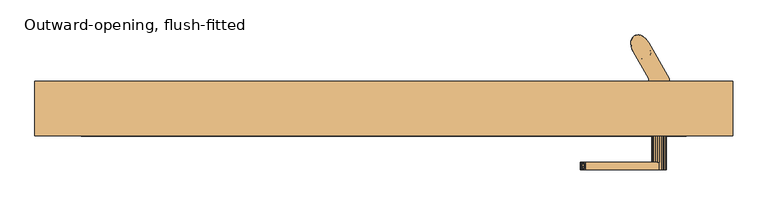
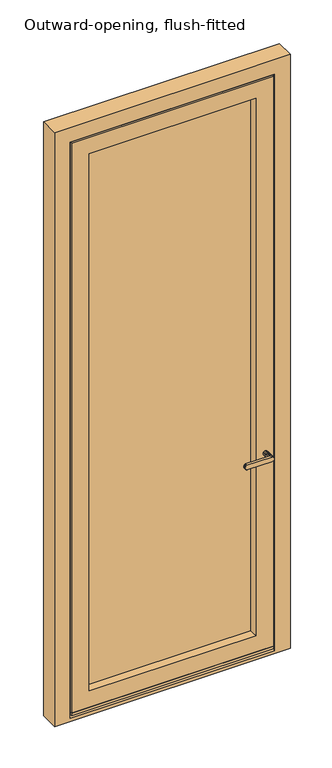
"""IFC4 building model written with IfcOpenShell, lengths in millimetres: door geometry, Outward-opening, flush-fitted."""

from ifc_helpers import new_model, si_unit, frame, origin, place, context, project, spatial, polyline, outline, extrude, faceted_brep, source, transform, mapped, element, save


def outward_opening_flush_fitted_30daa148(model_context):
    return source(origin(), model_context, "Body", "SolidModel", [
        extrude(outline(polyline([(817.0000003, 299.0), (-167.0, 299.0), (-167.0, 307.3), (817.0000003, 307.3), (817.0000003, 299.0)])), frame((0.0, 0.0, 176.0), z_axis=(0.0, 0.0, 1.0), x_axis=(1.0, 0.0, 0.0)), (0.0, 0.0, 1.0), 14.0),
        faceted_brep([(744.8067222, 464.9671188, 3103.5), (741.3206357, 464.7977178, 3103.5), (738.2202408, 463.6325784, 3103.5), (735.6610044, 461.5301259, 3103.5), (733.7712572, 458.5957857, 3103.5), (732.6457591, 454.9766982, 3103.5), (732.3409472, 450.8543393, 3103.5), (732.8721062, 446.4354214, 3103.5), (734.2126013, 441.9415275, 3103.5), (736.2952147, 437.5980002, 3103.5), (739.0155154, 433.622642, 3103.5), (742.2370961, 430.2147941, 3103.5), (745.7984134, 427.5453402, 3103.5), (749.5208879, 425.7481378, 3103.5), (753.2178593, 424.9133062, 3103.5), (756.7039458, 425.0827073, 3103.5), (759.8043407, 426.2478466, 3103.5), (762.3635771, 428.3502991, 3103.5), (764.2533243, 431.2846393, 3103.5), (765.3788224, 434.9037268, 3103.5), (765.6836342, 439.0260857, 3103.5), (765.1524753, 443.4450036, 3103.5), (763.8119802, 447.9388975, 3103.5), (761.7293668, 452.2824248, 3103.5), (759.0090661, 456.257783, 3103.5), (755.7874853, 459.6656309, 3103.5), (752.2261681, 462.3350848, 3103.5), (748.5036935, 464.1322872, 3103.5), (762.3635771, 428.3502991, 213.5), (759.8043407, 426.2478466, 213.5), (756.7039458, 425.0827073, 213.5), (753.2178593, 424.9133062, 213.5), (749.5208879, 425.7481378, 213.5), (745.7984134, 427.5453402, 213.5), (742.2370961, 430.2147941, 213.5), (739.0155154, 433.622642, 213.5), (736.2952147, 437.5980002, 213.5), (734.2126013, 441.9415275, 213.5), (732.8721062, 446.4354214, 213.5), (732.3409472, 450.8543393, 213.5), (732.6457591, 454.9766982, 213.5), (733.7712572, 458.5957857, 213.5), (735.6610044, 461.5301259, 213.5), (738.2202408, 463.6325784, 213.5), (741.3206357, 464.7977178, 213.5), (744.8067222, 464.9671188, 213.5), (748.5036935, 464.1322872, 213.5), (752.2261681, 462.3350848, 213.5), (755.7874853, 459.6656309, 213.5), (759.0090661, 456.257783, 213.5), (761.7293668, 452.2824248, 213.5), (763.8119802, 447.9388975, 213.5), (765.1524753, 443.4450036, 213.5), (765.6836342, 439.0260857, 213.5), (765.3788224, 434.9037268, 213.5), (764.2533243, 431.2846393, 213.5), (738.4494676, 463.7609343, 3039.7612202), (736.2952147, 437.5980002, 304.783489), (733.1085078, 456.8611962, 306.3237695), (746.6402933, 464.6737836, 3010.676228), (746.6402947, 464.6737832, 297.4293988), (745.2411791, 464.9198052, 446.6944318), (751.6729512, 462.6633417, 369.3240477), (739.7119586, 464.3371113, 368.0172447), (733.5897668, 458.1834463, 2875.4794892), (732.3332764, 451.4975723, 2947.6759605), (736.8642382, 462.6929778, 2948.98274), (739.3821368, 464.2065607, 2478.1094389), (751.0982645, 462.9813242, 2433.366327), (739.3223167, 464.18144, 2387.972511), (736.2952147, 437.5980002, 3012.216511), (761.7293668, 452.2824248, 3012.2165134), (761.7293668, 452.2824248, 304.7834866), (749.110197, 463.90456, 2922.0327645), (732.5397246, 454.3375828, 394.9672499), (736.2952147, 437.5980002, 396.066978), (737.9944676, 463.4982397, 277.2387736), (748.5438197, 464.1179974, 1435.6433105), (761.7293668, 452.2824248, 1491.4688512), (761.7293668, 452.2824248, 1479.816978), (761.7293668, 452.2824248, 1400.185359), (735.1918812, 460.9617113, 459.8390978), (740.0603328, 464.4609039, 526.5775533), (751.2605112, 462.8939051, 2701.4632106), (740.4883528, 464.5941609, 2731.5722903), (750.3335266, 463.3686784, 2789.8337304), (733.1085085, 456.8611986, 3019.5705949), (749.8483493, 463.5934845, 898.1262183), (750.5985067, 463.2390529, 991.9541054), (761.7293668, 452.2824248, 943.767915), (761.7293668, 452.2824248, 2920.9330213), (761.7293668, 452.2824248, 2833.5334894), (761.7293668, 452.2824248, 2829.649533), (761.7293668, 452.2824248, 2746.1339575), (732.3649761, 450.2518328, 715.5592395), (732.3600177, 452.5037097, 806.8427277), (734.5665531, 460.0659174, 753.748835), (749.7626925, 463.6314948, 2242.6546305), (735.4869101, 461.3281065, 2186.2171541), (737.7578063, 463.3485788, 2283.8905959), (748.7483927, 464.0434335, 1517.9321883), (737.1341448, 462.9071638, 1569.1585234), (749.1594059, 463.8849811, 1613.8704529), (738.4683878, 463.771178, 2656.7924568), (738.9192864, 464.0001544, 2567.4509478), (732.3935513, 453.0285127, 2607.3749737), (738.2202407, 463.6325784, 1035.0514496), (737.1079065, 462.8869902, 938.4578574), (732.3341555, 451.2320884, 1881.8538044), (736.2952147, 437.5980002, 1837.183022), (736.2952147, 437.5980002, 1852.7188505), (736.2952147, 437.5980002, 1926.524533), (737.031655, 462.8275832, 1125.837811), (747.2693467, 464.517869, 1168.8726905), (749.9080848, 463.5666791, 1085.9473652), (737.0854011, 462.8695777, 1212.7139165), (732.3420836, 452.0537925, 1256.4632408), (736.9417688, 462.7560369, 1300.8775569), (737.1341447, 462.9071638, 1658.5823811), (732.3447718, 452.1403125, 1613.8292772), (732.3332088, 451.4091556, 2149.8783316), (736.2952147, 437.5980002, 2105.2075549), (736.2952147, 437.5980002, 2120.7433821), (736.2952147, 437.5980002, 2194.5490659), (761.7293668, 452.2824248, 1852.718854), (751.1079853, 462.9761385, 1808.0481216), (750.8956489, 463.0879095, 1899.8226875), (750.534298, 463.2709086, 2612.1217017), (732.3364788, 451.8128215, 1527.5583067), (736.2952147, 437.5980002, 1479.816978), (736.2952147, 437.5980002, 1491.4688498), (736.2952147, 437.5980002, 1569.158489), (737.7578063, 463.3485788, 1747.8415416), (732.399869, 453.1083165, 1797.4267243), (738.6750569, 463.879689, 1844.8045559), (761.7293668, 452.2824248, 2478.109427), (751.1048736, 462.9777992, 2522.7801928), (736.9986873, 462.8015344, 2802.6217509), (741.3569523, 464.8050118, 2868.0801076), (732.3542417, 452.3830403, 1705.6035919), (761.7293668, 452.2824248, 852.4844284), (736.2952147, 437.5980002, 1211.7924451), (736.2952147, 437.5980002, 1217.6183832), (736.2952147, 437.5980002, 1301.133956), (761.7293668, 452.2824248, 1763.3773419), (750.6092048, 463.2337175, 1718.7066128), (732.3588912, 452.481305, 2327.1169999), (732.3575957, 452.4549077, 2418.8738478), (749.3824535, 463.7941617, 1263.2601666), (761.7293668, 452.2824248, 1308.9018724), (761.7293668, 452.2824248, 1301.133956), (761.7293668, 452.2824248, 1217.6183859), (736.2952147, 437.5980002, 2373.2320879), (761.7293668, 452.2824248, 1674.0358299), (761.7293668, 452.2824248, 1658.5), (761.7293668, 452.2824248, 1582.7523434), (732.345104, 452.1502613, 1167.1147796), (732.3822957, 452.8747832, 1077.7802226), (732.358304, 452.4694262, 1349.0545448), (736.2952147, 437.5980002, 2464.5155769), (732.4110111, 453.240021, 2510.1573349), (761.7293668, 452.2824248, 2031.4018724), (750.2446824, 463.4110552, 1991.6458261), (751.9024622, 462.5298181, 2076.0726483), (735.7228819, 461.5995764, 682.8588012), (732.3457513, 452.1692553, 621.3637247), (732.4092261, 453.219614, 532.9922607), (736.2952147, 437.5980002, 578.633956), (732.4283102, 453.4263296, 1441.7482187), (737.9761366, 463.4869765, 1390.4755053), (736.2952147, 437.5980002, 487.350467), (732.3858431, 449.907579, 460.8624964), (754.9606472, 460.3765494, 453.7451278), (751.3307786, 462.8554716, 511.4648929), (737.2710508, 463.0102415, 603.806908), (736.2952147, 437.5980002, 669.9174451), (732.3372326, 451.8535427, 898.126215), (738.2202409, 463.6325785, 841.8642654), (748.3647295, 464.1809238, 659.1547405), (753.4395809, 461.5368909, 806.8427306), (751.6349318, 462.6850987, 2856.6324745), (747.6798859, 464.4012707, 583.1880996), (761.7293668, 452.2824248, 2738.366044), (761.7293668, 452.2824248, 2656.7924511), (732.42069, 453.3466495, 2699.940621), (732.335527, 451.7539259, 2807.3986574), (732.6951026, 447.3587256, 2866.1656853), (761.7293668, 452.2824248, 2567.450939), (761.7293668, 452.2824248, 2647.0825549), (761.7293668, 452.2824248, 2464.5155769), (761.7293668, 452.2824248, 2388.767915), (750.2512531, 463.4079398, 2334.4675158), (761.7293668, 452.2824248, 2299.4264029), (761.7293668, 452.2824248, 2283.8905769), (761.7293668, 452.2824248, 2210.0848909), (736.2952147, 437.5980002, 2388.7679137), (736.2952147, 437.5980002, 2555.7990659), (736.2952147, 437.5980002, 2478.1094224), (736.2952147, 437.5980002, 2647.0825549), (736.2952147, 437.5980002, 2656.7924454), (736.2952147, 437.5980002, 2738.366044), (732.3920886, 453.0094265, 2235.3144708), (736.2952147, 437.5980002, 2283.8905769), (735.0212303, 460.7345832, 2121.0154935), (761.7293668, 452.2824248, 578.6339575), (753.6840343, 461.3627096, 2165.4141571), (761.7293668, 452.2824248, 2194.5490659), (761.7293668, 452.2824248, 2120.7433788), (733.2729891, 457.3594205, 2060.5368228), (736.2952147, 437.5980002, 2015.866044), (736.2952147, 437.5980002, 2031.4018734), (740.9710909, 464.7208451, 2041.9850456), (732.371189, 452.7039869, 1971.1953135), (761.7293668, 452.2824248, 2555.7990659), (736.2952147, 437.5980002, 2210.0848908), (736.2952147, 437.5980002, 2299.4264051), (732.3451269, 452.1509445, 988.4387133), (736.2952147, 437.5980002, 1033.1094231), (736.2952147, 437.5980002, 2567.4509367), (761.7293668, 452.2824248, 396.0669787), (736.2952147, 437.5980002, 2829.649533), (736.2952147, 437.5980002, 2920.933022), (736.2952147, 437.5980002, 2746.1339541), (736.2952147, 437.5980002, 761.2009341), (742.635027, 464.9831179, 2138.6482318), (761.7293668, 452.2824248, 669.917444), (754.2088943, 460.9730561, 719.6075288), (744.4741223, 464.9937381, 754.3114731), (761.7293668, 452.2824248, 761.2009362), (736.2952147, 437.5980002, 852.4844231), (736.2952147, 437.5980002, 943.7679121), (761.7293668, 452.2824248, 1035.0514015), (761.7293668, 452.2824248, 1211.7924451), (761.7293668, 452.2824248, 1126.3348937), (750.7750051, 463.1500152, 1354.5436536), (761.7293668, 452.2824248, 1390.475467), (736.2952147, 437.5980002, 1122.4509341), (736.2952147, 437.5980002, 1035.0514054), (761.7293668, 452.2824248, 1122.4509341), (761.7293668, 452.2824248, 1033.1094231), (736.2952147, 437.5980002, 1126.3348943), (736.2952147, 437.5980002, 1390.475467), (736.2952147, 437.5980002, 1400.1853609), (738.0377436, 463.5246154, 1475.3268617), (736.2952147, 437.5980002, 1308.901872), (736.2952147, 437.5980002, 1658.5), (736.2952147, 437.5980002, 1582.7523386), (736.2952147, 437.5980002, 1747.841511), (736.2952147, 437.5980002, 1763.3773418), (761.7293668, 452.2824248, 1569.158489), (736.2952147, 437.5980002, 1942.0603591), (761.7293668, 452.2824248, 1747.841511), (738.6974089, 463.891059, 1942.0603856), (761.7293668, 452.2824248, 1837.183022), (761.7293668, 452.2824248, 1942.060366), (761.7293668, 452.2824248, 2105.2075549), (736.2952147, 437.5980002, 1674.0358275), (761.7293668, 452.2824248, 2015.866044), (761.7293668, 452.2824248, 1926.524533), (761.7293668, 452.2824248, 487.3504709), (761.7293668, 452.2824248, 2373.2320879), (736.2952147, 437.5980002, 2833.5334882), (759.5751139, 426.1194907, 3039.7612202), (764.9160737, 433.0192288, 306.3237695), (751.3842882, 425.2066414, 3010.676228), (751.3842867, 425.2066418, 297.4293988), (752.7834024, 424.9606198, 446.6944318), (746.3516303, 427.2170833, 369.3240477), (758.3126229, 425.5433137, 368.0172447), (764.4348147, 431.6969787, 2875.4794892), (765.691305, 438.3828527, 2947.6759605), (761.1603433, 427.1874472, 2948.98274), (758.6424447, 425.6738643, 2478.1094389), (746.926317, 426.8991008, 2433.366327), (758.7022647, 425.698985, 2387.972511), (748.9143844, 425.975865, 2922.0327645), (765.4848569, 435.5428422, 394.9672499), (760.0301139, 426.3821853, 277.2387736), (749.4807618, 425.7624276, 1435.6433105), (762.8327002, 428.9187137, 459.8390978), (757.9642487, 425.4195211, 526.5775533), (746.7640703, 426.9865199, 2701.4632106), (757.5362287, 425.2862641, 2731.5722903), (747.6910549, 426.5117466, 2789.8337304), (764.916073, 433.0192264, 3019.5705949), (748.1762322, 426.2869405, 898.1262183), (747.4260747, 426.6413721, 991.9541054), (765.6596054, 439.6285922, 715.5592395), (765.6645638, 437.3767153, 806.8427277), (763.4580284, 429.8145076, 753.748835), (748.261889, 426.2489302, 2242.6546305), (762.5376714, 428.5523186, 2186.2171541), (760.2667751, 426.5318462, 2283.8905959), (749.2761888, 425.8369915, 1517.9321883), (760.8904367, 426.9732612, 1569.1585234), (748.8651756, 425.9954439, 1613.8704529), (759.5561937, 426.109247, 2656.7924568), (747.4902834, 426.6095164, 2612.1217017), (759.1052951, 425.8802706, 2567.4509478), (759.8043408, 426.2478466, 1035.0514496), (760.916675, 426.9934348, 938.4578574), (765.6904259, 438.6483366, 1881.8538044), (760.9929265, 427.0528418, 1125.837811), (750.7552347, 425.362556, 1168.8726905), (748.1164967, 426.3137459, 1085.9473652), (760.9391804, 427.0108473, 1212.7139165), (765.6824979, 437.8266325, 1256.4632408), (761.0828127, 427.1243881, 1300.8775569), (760.8904368, 426.9732612, 1658.5823811), (765.6798097, 437.7401125, 1613.8292772), (765.6913727, 438.4712695, 2149.8783316), (746.9165962, 426.9042865, 1808.0481216), (747.1289326, 426.7925155, 1899.8226875), (765.6881027, 438.0676035, 1527.5583067), (760.2667752, 426.5318462, 1747.8415416), (765.6247125, 436.7721085, 1797.4267243), (759.3495245, 426.000736, 1844.8045559), (746.9197079, 426.9026258, 2522.7801928), (761.0258942, 427.0788906, 2802.6217509), (756.6676292, 425.0754132, 2868.0801076), (765.6703398, 437.4973847, 1705.6035919), (747.4153766, 426.6467075, 1718.7066128), (765.6656902, 437.39912, 2327.1169999), (765.6669858, 437.4255173, 2418.8738478), (748.642128, 426.0862633, 1263.2601666), (765.6794775, 437.7301637, 1167.1147796), (765.6422857, 437.0056418, 1077.7802226), (765.6662775, 437.4109988, 1349.0545448), (765.6135703, 436.640404, 2510.1573349), (747.7798991, 426.4693698, 1991.6458261), (746.1221192, 427.3506069, 2076.0726483), (762.3016996, 428.2808486, 682.8588012), (765.6788301, 437.7111697, 621.3637247), (765.6153554, 436.660811, 532.9922607), (765.6310302, 436.8519123, 2607.3749737), (765.5962712, 436.4540954, 1441.7482187), (760.0484449, 426.3934485, 1390.4755053), (765.6387384, 439.972846, 460.8624964), (743.0639343, 429.5038756, 453.7451278), (746.6938028, 427.0249534, 511.4648929), (760.7535307, 426.8701835, 603.806908), (765.6873489, 438.0268823, 898.126215), (759.8043406, 426.2478465, 841.8642654), (749.659852, 425.6995012, 659.1547405), (744.5850006, 428.3435341, 806.8427306), (746.3896497, 427.1953263, 2856.6324745), (750.3446956, 425.4791543, 583.1880996), (765.6038915, 436.5337755, 2699.940621), (765.6890545, 438.1264991, 2807.3986574), (765.3294789, 442.5216994, 2866.1656853), (747.7733284, 426.4724852, 2334.4675158), (765.6324929, 436.8709985, 2235.3144708), (763.0033512, 429.1458418, 2121.0154935), (744.3405471, 428.5177154, 2165.4141571), (764.7515924, 432.5210045, 2060.5368228), (757.0534906, 425.1595799, 2041.9850456), (765.6533925, 437.1764381, 1971.1953135), (765.6794545, 437.7294805, 988.4387133), (755.3895545, 424.8973071, 2138.6482318), (743.8156872, 428.9073689, 719.6075288), (753.5504591, 424.8866869, 754.3114731), (747.2495764, 426.7304098, 1354.5436536), (759.9868379, 426.3558096, 1475.3268617), (759.3271726, 425.989366, 1942.0603856)], [[[0, 1, 2, 3, 4, 5, 6, 7, 8, 9, 10, 11, 12, 13, 14, 15, 16, 17, 18, 19, 20, 21, 22, 23, 24, 25, 26, 27]], [[28, 29, 30, 31, 32, 33, 34, 35, 36, 37, 38, 39, 40, 41, 42, 43, 44, 45, 46, 47, 48, 49, 50, 51, 52, 53, 54, 55]], [[56, 3, 2]], [[38, 57, 58]], [[26, 25, 59]], [[59, 0, 27]], [[47, 60, 48]], [[61, 62, 63]], [[56, 1, 0]], [[64, 65, 66]], [[45, 60, 46]], [[67, 68, 69]], [[70, 9, 8]], [[37, 36, 57]], [[24, 23, 71]], [[72, 50, 49]], [[66, 59, 73]], [[47, 46, 60]], [[74, 57, 75]], [[58, 76, 41]], [[77, 78, 79, 80]], [[25, 24, 71]], [[81, 82, 61]], [[83, 84, 85]], [[6, 86, 7]], [[7, 70, 8]], [[87, 88, 89]], [[58, 57, 74]], [[60, 62, 72]], [[26, 59, 27]], [[73, 71, 90]], [[86, 65, 70]], [[76, 45, 44]], [[39, 58, 40]], [[85, 91, 92, 93]], [[94, 95, 96]], [[76, 44, 43]], [[97, 98, 99]], [[6, 5, 86]], [[100, 101, 102]], [[59, 56, 0]], [[86, 56, 66]], [[103, 104, 105]], [[58, 41, 40]], [[38, 37, 57]], [[60, 45, 76]], [[25, 71, 59]], [[76, 42, 41]], [[4, 3, 56]], [[63, 58, 74]], [[60, 76, 63]], [[4, 86, 5]], [[38, 58, 39]], [[48, 72, 49]], [[106, 88, 107]], [[56, 86, 4]], [[60, 72, 48]], [[59, 71, 73]], [[65, 86, 66]], [[62, 60, 63]], [[86, 70, 7]], [[108, 109, 110, 111]], [[112, 113, 114]], [[115, 116, 117]], [[118, 101, 119]], [[120, 121, 122, 123]], [[124, 125, 126]], [[127, 104, 103]], [[128, 129, 130, 131]], [[132, 133, 134]], [[135, 68, 136]], [[137, 64, 138]], [[119, 139, 118]], [[89, 140, 87]], [[116, 141, 142, 143]], [[144, 145, 125]], [[69, 146, 147]], [[148, 149, 150, 151]], [[147, 146, 152]], [[132, 139, 133]], [[102, 153, 154, 155]], [[156, 112, 157]], [[158, 117, 116]], [[159, 160, 147]], [[161, 162, 163]], [[96, 164, 94]], [[165, 166, 167]], [[67, 136, 68]], [[160, 105, 104]], [[118, 145, 102]], [[158, 168, 169]], [[75, 170, 171]], [[172, 61, 173]], [[166, 170, 167]], [[174, 166, 165]], [[94, 165, 175]], [[81, 171, 166]], [[166, 82, 81]], [[95, 176, 177]], [[174, 164, 178]], [[87, 179, 177]], [[90, 91, 180]], [[174, 178, 181]], [[83, 93, 182, 183]], [[105, 184, 103]], [[185, 186, 64]], [[83, 85, 93]], [[85, 138, 180]], [[85, 137, 138]], [[136, 127, 187]], [[127, 183, 188, 187]], [[103, 84, 83]], [[183, 127, 83]], [[103, 83, 127]], [[68, 135, 189, 190]], [[104, 136, 67]], [[191, 68, 190]], [[68, 191, 69]], [[97, 192, 193, 194]], [[192, 97, 191]], [[191, 99, 69]], [[147, 152, 195, 159]], [[160, 196, 105]], [[160, 159, 197, 196]], [[147, 67, 69]], [[184, 198, 199, 200]], [[198, 184, 105]], [[67, 147, 160]], [[146, 69, 99]], [[201, 146, 99]], [[201, 202, 146]], [[191, 97, 99]], [[98, 203, 120]], [[178, 204, 181]], [[205, 194, 206, 207]], [[208, 209, 210, 121]], [[201, 120, 123]], [[211, 212, 208]], [[136, 187, 213, 135]], [[136, 104, 127]], [[104, 67, 160]], [[201, 123, 214, 202]], [[146, 202, 215, 152]], [[98, 120, 201]], [[157, 216, 217]], [[141, 116, 156]], [[208, 121, 120]], [[138, 66, 73]], [[84, 184, 137]], [[105, 196, 218, 198]], [[61, 82, 173]], [[72, 62, 219]], [[81, 63, 74]], [[61, 172, 62]], [[82, 181, 173]], [[220, 186, 185]], [[70, 65, 221]], [[185, 184, 200]], [[64, 186, 65]], [[64, 137, 185]], [[184, 185, 137]], [[185, 200, 222, 220]], [[175, 223, 94]], [[174, 165, 164]], [[165, 167, 175]], [[205, 97, 194]], [[98, 97, 224]], [[63, 81, 61]], [[81, 74, 171]], [[225, 178, 226]], [[166, 174, 82]], [[164, 227, 178]], [[181, 82, 174]], [[204, 178, 225]], [[228, 179, 140]], [[226, 178, 227]], [[107, 87, 177]], [[179, 228, 226]], [[87, 107, 88]], [[95, 223, 229]], [[216, 230, 217]], [[95, 229, 176]], [[230, 176, 229]], [[177, 227, 96]], [[114, 88, 106]], [[114, 231, 88]], [[112, 114, 106]], [[113, 151, 232, 233]], [[117, 148, 115]], [[114, 113, 233]], [[234, 80, 235, 149]], [[156, 157, 236]], [[157, 217, 237, 236]], [[216, 106, 107]], [[106, 216, 157]], [[176, 216, 107]], [[216, 176, 230]], [[176, 107, 177]], [[114, 233, 238, 231]], [[88, 231, 239, 89]], [[112, 156, 115]], [[156, 236, 240, 141]], [[116, 143, 158]], [[156, 116, 115]], [[168, 241, 242, 129]], [[241, 168, 158]], [[131, 119, 128]], [[243, 101, 100]], [[158, 169, 117]], [[117, 169, 234]], [[112, 115, 113]], [[106, 157, 112]], [[158, 143, 244, 241]], [[119, 245, 139]], [[119, 131, 246, 245]], [[101, 243, 128]], [[133, 247, 248, 109]], [[247, 133, 139]], [[139, 132, 118]], [[118, 102, 101]], [[118, 132, 145]], [[155, 100, 102]], [[100, 155, 249, 78]], [[212, 111, 250, 209]], [[108, 133, 109]], [[133, 108, 134]], [[134, 126, 125]], [[145, 144, 251, 153]], [[208, 212, 209]], [[108, 252, 134]], [[125, 124, 253, 144]], [[102, 145, 153]], [[125, 132, 134]], [[148, 234, 149]], [[168, 243, 169]], [[234, 77, 80]], [[132, 125, 145]], [[126, 134, 252]], [[162, 126, 252]], [[162, 254, 126]], [[117, 234, 148]], [[169, 243, 77]], [[252, 212, 211]], [[163, 207, 255, 161]], [[115, 148, 113]], [[151, 113, 148]], [[101, 128, 119]], [[129, 128, 168]], [[139, 245, 256, 247]], [[162, 161, 257, 254]], [[126, 254, 258, 124]], [[173, 204, 259]], [[204, 173, 181]], [[172, 173, 259]], [[111, 212, 108]], [[108, 212, 252]], [[211, 224, 163]], [[211, 163, 162]], [[205, 163, 224]], [[252, 211, 162]], [[211, 208, 203]], [[243, 168, 128]], [[77, 243, 100]], [[77, 100, 78]], [[169, 77, 234]], [[191, 190, 260, 192]], [[66, 138, 64]], [[138, 73, 180]], [[90, 180, 73]], [[91, 85, 180]], [[95, 94, 223]], [[165, 94, 164]], [[75, 171, 74]], [[166, 171, 170]], [[177, 96, 95]], [[227, 164, 96]], [[99, 98, 201]], [[203, 98, 224]], [[211, 203, 224]], [[120, 203, 208]], [[177, 179, 227]], [[87, 140, 179]], [[163, 205, 207]], [[97, 205, 224]], [[259, 219, 172]], [[62, 172, 219]], [[186, 220, 261, 221]], [[65, 186, 221]], [[42, 76, 43]], [[63, 76, 58]], [[1, 56, 2]], [[66, 56, 59]], [[184, 84, 103]], [[85, 84, 137]], [[179, 226, 227]], [[225, 226, 228]], [[262, 17, 16]], [[52, 72, 263]], [[12, 11, 264]], [[264, 14, 13]], [[33, 265, 34]], [[266, 267, 268]], [[262, 15, 14]], [[269, 270, 271]], [[31, 265, 32]], [[272, 273, 274]], [[71, 23, 22]], [[51, 50, 72]], [[10, 9, 70]], [[57, 36, 35]], [[271, 264, 275]], [[33, 32, 265]], [[276, 72, 219]], [[263, 277, 55]], [[278, 130, 129, 242]], [[11, 10, 70]], [[279, 280, 266]], [[281, 282, 283]], [[20, 284, 21]], [[21, 71, 22]], [[285, 286, 230]], [[263, 72, 276]], [[265, 267, 57]], [[12, 264, 13]], [[275, 70, 221]], [[284, 270, 71]], [[277, 31, 30]], [[53, 263, 54]], [[283, 261, 220, 222]], [[287, 288, 289]], [[277, 30, 29]], [[290, 291, 292]], [[20, 19, 284]], [[293, 294, 295]], [[264, 262, 14]], [[284, 262, 271]], [[296, 297, 298]], [[263, 55, 54]], [[52, 51, 72]], [[265, 31, 277]], [[11, 70, 264]], [[277, 28, 55]], [[18, 17, 262]], [[268, 263, 276]], [[265, 277, 268]], [[18, 284, 19]], [[52, 263, 53]], [[34, 57, 35]], [[299, 286, 300]], [[262, 284, 18]], [[265, 57, 34]], [[264, 70, 275]], [[270, 284, 271]], [[267, 265, 268]], [[284, 71, 21]], [[301, 253, 124, 258]], [[302, 303, 304]], [[305, 306, 307]], [[308, 294, 309]], [[310, 255, 207, 206]], [[110, 311, 312]], [[282, 281, 296]], [[313, 79, 78, 249]], [[314, 315, 316]], [[272, 298, 317]], [[318, 269, 319]], [[309, 320, 308]], [[230, 229, 285]], [[306, 232, 151, 150]], [[248, 321, 311]], [[274, 322, 323]], [[324, 244, 143, 142]], [[323, 322, 260]], [[314, 320, 315]], [[295, 256, 245, 246]], [[325, 302, 326]], [[327, 307, 306]], [[189, 328, 323]], [[210, 329, 330]], [[289, 331, 287]], [[332, 333, 204]], [[272, 317, 273]], [[328, 334, 298]], [[308, 321, 295]], [[327, 335, 336]], [[219, 259, 337]], [[338, 266, 339]], [[333, 259, 204]], [[340, 333, 332]], [[287, 332, 225]], [[279, 337, 333]], [[333, 280, 279]], [[288, 341, 342]], [[340, 331, 343]], [[285, 344, 342]], [[221, 261, 345]], [[340, 343, 346]], [[281, 222, 200, 199]], [[334, 347, 296]], [[348, 349, 269]], [[281, 283, 222]], [[283, 319, 345]], [[283, 318, 319]], [[317, 297, 218]], [[297, 199, 198, 218]], [[297, 317, 298]], [[199, 297, 281]], [[296, 281, 297]], [[273, 197, 159, 195]], [[197, 273, 317]], [[350, 273, 195]], [[273, 350, 274]], [[290, 215, 202, 214]], [[215, 290, 350]], [[350, 292, 274]], [[323, 260, 190, 189]], [[328, 213, 334]], [[328, 189, 135, 213]], [[323, 272, 274]], [[347, 188, 183, 182]], [[188, 347, 334]], [[272, 323, 328]], [[322, 274, 292]], [[351, 322, 292]], [[351, 193, 322]], [[350, 290, 292]], [[291, 352, 310]], [[343, 167, 346]], [[353, 214, 123, 122]], [[354, 257, 161, 255]], [[351, 310, 206]], [[355, 356, 354]], [[317, 218, 196, 197]], [[328, 298, 272]], [[334, 296, 298]], [[351, 206, 194, 193]], [[322, 193, 192, 260]], [[291, 310, 351]], [[326, 357, 239]], [[232, 306, 325]], [[354, 255, 310]], [[319, 271, 275]], [[282, 347, 318]], [[334, 213, 187, 188]], [[266, 280, 339]], [[57, 267, 75]], [[279, 268, 276]], [[266, 338, 267]], [[280, 346, 339]], [[92, 349, 348]], [[71, 270, 90]], [[348, 347, 182]], [[269, 349, 270]], [[269, 318, 348]], [[347, 348, 318]], [[348, 182, 93, 92]], [[225, 228, 287]], [[340, 332, 331]], [[332, 204, 225]], [[353, 290, 214]], [[291, 290, 358]], [[268, 279, 266]], [[279, 276, 337]], [[175, 343, 359]], [[333, 340, 280]], [[331, 360, 343]], [[346, 280, 340]], [[167, 343, 175]], [[223, 344, 229]], [[359, 343, 360]], [[300, 285, 342]], [[344, 223, 359]], [[285, 300, 286]], [[288, 228, 140]], [[357, 89, 239]], [[288, 140, 341]], [[89, 341, 140]], [[342, 360, 289]], [[304, 286, 299]], [[304, 237, 286]], [[302, 304, 299]], [[303, 142, 141, 240]], [[307, 324, 305]], [[304, 303, 240]], [[361, 242, 241, 244]], [[325, 326, 238]], [[326, 239, 231, 238]], [[357, 299, 300]], [[299, 357, 326]], [[341, 357, 300]], [[357, 341, 89]], [[341, 300, 342]], [[304, 240, 236, 237]], [[286, 237, 217, 230]], [[302, 325, 305]], [[325, 238, 233, 232]], [[306, 150, 327]], [[325, 306, 305]], [[335, 235, 80, 79]], [[235, 335, 327]], [[249, 309, 313]], [[362, 294, 293]], [[327, 336, 307]], [[307, 336, 361]], [[302, 305, 303]], [[299, 326, 302]], [[327, 150, 149, 235]], [[309, 154, 320]], [[309, 249, 155, 154]], [[294, 362, 313]], [[315, 251, 144, 253]], [[251, 315, 320]], [[320, 314, 308]], [[308, 295, 294]], [[308, 314, 321]], [[246, 293, 295]], [[293, 246, 131, 130]], [[356, 258, 254, 257]], [[301, 315, 253]], [[315, 301, 316]], [[316, 312, 311]], [[321, 248, 247, 256]], [[354, 356, 257]], [[301, 363, 316]], [[311, 110, 109, 248]], [[295, 321, 256]], [[311, 314, 316]], [[324, 361, 244]], [[335, 362, 336]], [[361, 278, 242]], [[314, 311, 321]], [[312, 316, 363]], [[329, 312, 363]], [[329, 250, 312]], [[307, 361, 324]], [[336, 362, 278]], [[363, 356, 355]], [[330, 122, 121, 210]], [[305, 324, 303]], [[142, 303, 324]], [[294, 313, 309]], [[79, 313, 335]], [[320, 154, 153, 251]], [[329, 210, 209, 250]], [[312, 250, 111, 110]], [[339, 167, 170]], [[167, 339, 346]], [[338, 339, 170]], [[258, 356, 301]], [[301, 356, 363]], [[355, 358, 330]], [[355, 330, 329]], [[353, 330, 358]], [[363, 355, 329]], [[355, 354, 352]], [[362, 335, 313]], [[278, 362, 293]], [[278, 293, 130]], [[336, 278, 361]], [[350, 195, 152, 215]], [[271, 319, 269]], [[319, 275, 345]], [[221, 345, 275]], [[261, 283, 345]], [[288, 287, 228]], [[332, 287, 331]], [[219, 337, 276]], [[333, 337, 259]], [[342, 289, 288]], [[360, 331, 289]], [[292, 291, 351]], [[352, 291, 358]], [[355, 352, 358]], [[310, 352, 354]], [[342, 344, 360]], [[285, 229, 344]], [[330, 353, 122]], [[290, 353, 358]], [[170, 75, 338]], [[267, 338, 75]], [[349, 92, 91, 90]], [[270, 349, 90]], [[28, 277, 29]], [[268, 277, 263]], [[15, 262, 16]], [[271, 262, 264]], [[347, 282, 296]], [[283, 282, 318]], [[344, 359, 360]], [[175, 359, 223]]]),
        faceted_brep([(790.5801284, 299.0, 1203.102886), (790.9886311, 299.0, 1200.0), (790.5801284, 299.0, 1196.897114), (789.3824591, 299.0, 1194.0056846), (787.4772424, 299.0, 1191.5227579), (784.9943157, 299.0, 1189.6175412), (782.1028863, 299.0, 1188.4198719), (779.0000003, 299.0, 1188.0113692), (775.8971143, 299.0, 1188.4198719), (773.0056849, 299.0, 1189.6175412), (770.5227582, 299.0, 1191.5227579), (768.6175415, 299.0, 1194.0056846), (767.4198722, 299.0, 1196.897114), (767.0113695, 299.0, 1200.0), (767.4198722, 299.0, 1203.102886), (768.6175415, 299.0, 1205.9943154), (770.5227582, 299.0, 1208.4772421), (773.0056849, 299.0, 1210.3824588), (775.8971143, 299.0, 1211.5801281), (779.0000003, 299.0, 1211.9886308), (782.1028863, 299.0, 1211.5801281), (784.9943157, 299.0, 1210.3824588), (787.4772424, 299.0, 1208.4772421), (789.3824591, 299.0, 1205.9943154), (779.0000003, 255.5001175, 1188.0113692), (775.8971143, 255.5001175, 1188.4198719), (773.0056849, 255.5001175, 1189.6175412), (770.5227582, 255.5001175, 1191.5227579), (768.6175415, 255.5001175, 1194.0056846), (767.4198722, 255.5001175, 1196.897114), (767.0113695, 255.5001175, 1200.0), (767.4198722, 255.5001175, 1203.102886), (768.6175415, 255.5001175, 1205.9943154), (770.5227582, 255.5001175, 1208.4772421), (773.0056849, 255.5001175, 1210.3824588), (775.8971143, 255.5001175, 1211.5801281), (779.0000003, 255.5001175, 1211.9886308), (779.0000003, 243.0000305, 1211.9886308), (782.1028863, 243.0000305, 1211.5801281), (784.9943157, 243.0000305, 1210.3824588), (787.4772424, 243.0000305, 1208.4772421), (789.3824591, 243.0000305, 1205.9943154), (790.5801284, 243.0000305, 1203.102886), (790.9886311, 243.0000305, 1200.0), (790.5801284, 243.0000305, 1196.897114), (789.3824591, 243.0000305, 1194.0056846), (787.4772424, 243.0000305, 1191.5227579), (784.9943157, 243.0000305, 1189.6175412), (782.1028863, 243.0000305, 1188.4198719), (779.0000003, 243.0000305, 1188.0113692), (657.3382077, 243.0000305, 1211.9886308), (655.7960032, 243.0000305, 1211.7582726), (654.3130647, 243.0000305, 1211.0760506), (652.9463808, 243.0000305, 1209.9681822), (651.7484724, 243.0000305, 1208.4772421), (650.7653743, 243.0000305, 1206.6605264), (650.0348665, 243.0000305, 1204.5878504), (649.5850221, 243.0000305, 1202.3388658), (649.4331282, 243.0000305, 1200.0), (649.5850221, 243.0000305, 1197.6611342), (650.0348665, 243.0000305, 1195.4121496), (650.7653743, 243.0000305, 1193.3394736), (651.7484724, 243.0000305, 1191.5227579), (652.9463808, 243.0000305, 1190.0318178), (654.3130647, 243.0000305, 1188.9239494), (655.7960032, 243.0000305, 1188.2417274), (657.3382077, 243.0000305, 1188.0113692), (649.5850221, 255.5001175, 1197.6611342), (649.4331282, 255.5001175, 1200.0), (649.5850221, 255.5001175, 1202.3388658), (650.0348665, 255.5001175, 1204.5878504), (650.7653743, 255.5001175, 1206.6605264), (651.7484724, 255.5001175, 1208.4772421), (652.9463808, 255.5001175, 1209.9681822), (654.3130647, 255.5001175, 1211.0760506), (655.7960032, 255.5001175, 1211.7582726), (657.3382077, 255.5001175, 1211.9886308), (657.3382077, 255.5001175, 1188.0113692), (655.7960032, 255.5001175, 1188.2417274), (654.3130647, 255.5001175, 1188.9239494), (652.9463808, 255.5001175, 1190.0318178), (651.7484724, 255.5001175, 1191.5227579), (650.7653743, 255.5001175, 1193.3394736), (650.0348665, 255.5001175, 1195.4121496), (657.3382077, 250.0756599, 1188.0113692), (653.6117791, 249.2500761, 1189.4269715), (651.2274986, 249.2500743, 1192.3944932), (649.7735183, 249.250074, 1196.5198842), (650.36655, 249.250074, 1205.6514014), (649.4711933, 249.2500741, 1201.1750915), (652.3232783, 249.250074, 1209.2673369), (655.0434842, 249.250074, 1211.4724044), (657.3382077, 249.250074, 1211.9886308)], [[[0, 1, 2, 3, 4, 5, 6, 7, 8, 9, 10, 11, 12, 13, 14, 15, 16, 17, 18, 19, 20, 21, 22, 23]], [[7, 24, 25, 8]], [[8, 25, 26, 9]], [[11, 10, 27, 28]], [[27, 10, 9, 26]], [[12, 11, 28, 29]], [[12, 29, 30, 13]], [[13, 30, 31, 14]], [[14, 31, 32, 15]], [[17, 16, 33, 34]], [[33, 16, 15, 32]], [[18, 17, 34, 35]], [[18, 35, 36, 19]], [[19, 36, 37, 38, 20]], [[20, 38, 39, 21]], [[23, 22, 40, 41]], [[40, 22, 21, 39]], [[0, 23, 41, 42]], [[0, 42, 43, 1]], [[1, 43, 44, 2]], [[2, 44, 45, 3]], [[5, 4, 46, 47]], [[46, 4, 3, 45]], [[6, 5, 47, 48]], [[6, 48, 49, 24, 7]], [[44, 43, 42, 41, 40, 39, 38, 37, 50, 51, 52, 53, 54, 55, 56, 57, 58, 59, 60, 61, 62, 63, 64, 65, 66, 49, 48, 47, 46, 45]], [[67, 68, 69, 70, 71, 72, 73, 74, 75, 76, 36, 35, 34, 33, 32, 31, 30, 29, 28, 27, 26, 25, 24, 77, 78, 79, 80, 81, 82, 83]], [[24, 49, 66, 84, 77]], [[65, 64, 85]], [[86, 85, 63]], [[82, 87, 83]], [[80, 86, 81]], [[69, 88, 70]], [[84, 85, 78]], [[87, 60, 59]], [[89, 57, 56]], [[60, 87, 86]], [[73, 90, 91, 74]], [[62, 61, 86]], [[90, 72, 71, 88]], [[89, 87, 58]], [[79, 85, 80]], [[78, 77, 84]], [[65, 84, 66]], [[79, 78, 85]], [[87, 59, 58]], [[63, 85, 64]], [[61, 60, 86]], [[63, 62, 86]], [[81, 86, 82]], [[80, 85, 86]], [[75, 92, 76]], [[51, 50, 92]], [[88, 55, 54, 90]], [[82, 86, 87]], [[84, 65, 85]], [[67, 83, 87]], [[53, 52, 91, 90]], [[67, 87, 89]], [[88, 56, 55]], [[56, 88, 89]], [[52, 51, 91]], [[90, 54, 53]], [[68, 67, 89]], [[68, 89, 69]], [[69, 89, 88]], [[70, 88, 71]], [[51, 92, 91]], [[90, 73, 72]], [[74, 91, 75]], [[91, 92, 75]], [[89, 58, 57]], [[37, 36, 76, 92, 50]]]),
        faceted_brep([(762.0438998, 393.0, 3073.5), (795.9561008, 393.0, 3073.5), (795.9561008, 389.0, 3073.5), (762.0438998, 389.0, 3073.5), (762.0438998, 393.0, 3103.5), (795.9561008, 393.0, 3103.5), (762.0438998, 389.0, 3107.5), (762.0438998, 393.0, 3107.5), (795.9561008, 389.0, 3107.5), (795.9561008, 393.0, 3107.5), (761.7293668, 452.2824248, 3103.5), (736.2952147, 437.5980002, 3103.5), (734.2126013, 441.9415275, 3103.5), (732.8721062, 446.4354214, 3103.5), (732.3409472, 450.8543393, 3103.5), (732.6457591, 454.9766982, 3103.5), (733.7712572, 458.5957857, 3103.5), (735.6610044, 461.5301259, 3103.5), (738.2202408, 463.6325784, 3103.5), (741.3206357, 464.7977178, 3103.5), (744.8067222, 464.9671188, 3103.5), (748.5036935, 464.1322872, 3103.5), (752.2261681, 462.3350848, 3103.5), (755.7874853, 459.6656309, 3103.5), (759.0090661, 456.257783, 3103.5), (744.8067222, 464.9671188, 3107.5), (741.3206357, 464.7977178, 3107.5), (738.2202408, 463.6325784, 3107.5), (735.6610044, 461.5301259, 3107.5), (733.7712572, 458.5957857, 3107.5), (732.6457591, 454.9766982, 3107.5), (732.3409472, 450.8543393, 3107.5), (732.8721062, 446.4354214, 3107.5), (734.2126013, 441.9415275, 3107.5), (736.2952147, 437.5980002, 3107.5), (761.7293668, 452.2824248, 3107.5), (759.0090661, 456.257783, 3107.5), (755.7874853, 459.6656309, 3107.5), (752.2261681, 462.3350848, 3107.5), (748.5036935, 464.1322872, 3107.5), (761.7293668, 452.2824248, 3105.9099144), (736.2952147, 437.5980002, 3105.0900855), (734.6256706, 460.1586458, 3105.5), (746.6402922, 464.6737838, 3105.5), (732.3554426, 450.4468931, 3105.5)], [[[0, 1, 2, 3]], [[4, 5, 1, 0]], [[4, 0, 3, 6, 7]], [[6, 3, 2, 8]], [[5, 9, 8, 2, 1]], [[10, 5, 4, 11, 12, 13, 14, 15, 16, 17, 18, 19, 20, 21, 22, 23, 24]], [[25, 26, 27, 28, 29, 30, 31, 32, 33, 34, 7, 6, 8, 9, 35, 36, 37, 38, 39]], [[9, 5, 10, 40, 35]], [[4, 7, 34, 41, 11]], [[36, 35, 40]], [[40, 10, 24]], [[28, 42, 29]], [[40, 23, 43]], [[24, 23, 40]], [[21, 20, 43]], [[37, 43, 38]], [[39, 43, 25]], [[43, 19, 18]], [[12, 11, 41]], [[41, 34, 33]], [[21, 43, 22]], [[40, 37, 36]], [[43, 20, 19]], [[42, 16, 15]], [[43, 23, 22]], [[44, 41, 33]], [[43, 39, 38]], [[43, 26, 25]], [[43, 37, 40]], [[26, 43, 27]], [[42, 43, 18]], [[42, 17, 16]], [[14, 44, 15]], [[41, 13, 12]], [[41, 44, 13]], [[13, 44, 14]], [[33, 32, 44]], [[27, 43, 42]], [[17, 42, 18]], [[28, 27, 42]], [[29, 42, 30]], [[30, 42, 44]], [[44, 42, 15]], [[44, 31, 30]], [[44, 32, 31]]]),
        faceted_brep([(828.5000003, 307.3, 3138.5), (828.5000003, 307.3, 178.5), (828.5000003, 380.7, 178.5), (828.5000003, 380.7, 3138.5), (849.0000003, 380.7, 3159.0), (-199.0, 380.7, 3159.0), (-199.0, 380.7, 158.0), (849.0000003, 380.7, 158.0), (-178.5, 380.7, 3138.5), (-178.5, 380.7, 178.5), (-178.5, 307.3, 178.5), (-178.5, 307.3, 3138.5), (-167.0, 307.3, 3127.0), (817.0000003, 307.3, 3127.0), (817.0000003, 307.3, 190.0), (-167.0, 307.3, 190.0), (817.0000003, 299.0, 3127.0), (817.0000003, 299.0, 190.0), (-167.0, 299.0, 190.0), (-167.0, 299.0, 3127.0), (-81.9999695, 299.0, 3041.9999695), (731.9999698, 299.0, 3041.9999695), (731.9999698, 299.0, 275.0000305), (-81.9999695, 299.0, 275.0000305), (731.9999698, 340.0, 3041.9999695), (731.9999698, 340.0, 275.0000305), (-81.9999695, 340.0, 275.0000305), (-97.0, 340.0, 3057.0), (747.0000003, 340.0, 3057.0), (747.0000003, 340.0, 260.0), (-97.0, 340.0, 260.0), (-81.9999695, 340.0, 3041.9999695), (747.0000003, 378.0, 3057.0), (747.0000003, 378.0, 260.0), (-97.0, 378.0, 260.0), (-97.0, 378.0, 3057.0), (-80.0, 378.0, 3040.0), (730.0, 378.0, 3040.0), (730.0, 378.0, 277.0), (-80.0, 378.0, 277.0), (730.0, 389.0, 3040.0), (730.0, 389.0, 277.0), (-80.0, 389.0, 277.0), (-199.0, 389.0, 3159.0), (849.0000003, 389.0, 3159.0), (849.0000003, 389.0, 158.0), (-199.0, 389.0, 158.0), (-80.0, 389.0, 3040.0)], [[[0, 1, 2, 3]], [[4, 5, 6, 7], [8, 3, 2, 9]], [[1, 10, 9, 2]], [[0, 11, 10, 1], [12, 13, 14, 15]], [[16, 17, 14, 13]], [[17, 18, 15, 14]], [[16, 19, 18, 17], [20, 21, 22, 23]], [[24, 25, 22, 21]], [[25, 26, 23, 22]], [[27, 28, 29, 30], [24, 31, 26, 25]], [[32, 33, 29, 28]], [[33, 34, 30, 29]], [[32, 35, 34, 33], [36, 37, 38, 39]], [[40, 41, 38, 37]], [[41, 42, 39, 38]], [[43, 44, 45, 46], [40, 47, 42, 41]], [[4, 7, 45, 44]], [[7, 6, 46, 45]], [[10, 11, 8, 9]], [[18, 19, 12, 15]], [[26, 31, 20, 23]], [[34, 35, 27, 30]], [[42, 47, 36, 39]], [[6, 5, 43, 46]], [[11, 0, 3, 8]], [[19, 16, 13, 12]], [[31, 24, 21, 20]], [[35, 32, 28, 27]], [[47, 40, 37, 36]], [[5, 4, 44, 43]]]),
        faceted_brep([(-174.0, 299.0, 3134.0), (-174.0, 299.0, 165.0072496), (-174.0, 307.3, 167.8651688), (-174.0, 307.3, 3134.0), (-194.5, 307.3, 167.8651688), (-194.5, 307.3, 3154.5), (844.5000003, 307.3, 3154.5), (844.5000003, 307.3, 167.8651688), (824.0000003, 307.3, 167.8651688), (824.0000003, 307.3, 3134.0), (-194.5, 313.5, 170.0), (-194.5, 321.0, 170.0), (-194.5, 321.0, 164.3), (-194.5, 380.7, 164.3), (-194.5, 380.7, 3154.5), (-206.0, 388.9993365, 150.0), (-206.0, 388.9993365, 3166.0), (-206.0, 380.7, 3166.0), (-206.0, 380.7, 150.0), (-250.0, 388.9993365, 150.0), (-250.0, 388.9993365, 3210.0), (900.0, 388.9993365, 3210.0), (900.0, 388.9993365, 150.0), (856.0000003, 388.9993365, 150.0), (856.0000003, 388.9993365, 3166.0), (824.0000003, 299.0, 165.0072496), (824.0000003, 299.0, 3134.0), (856.0000003, 380.7, 150.0), (856.0000003, 380.7, 3166.0), (844.5000003, 380.7, 3154.5), (844.5000003, 380.7, 164.3), (844.5000003, 321.0, 164.3), (844.5000003, 321.0, 170.0), (844.5000003, 313.5, 170.0), (-250.0, 299.0, 3210.0), (900.0, 299.0, 3210.0), (-250.0, 299.0, 150.0), (900.0, 299.0, 150.0)], [[[0, 1, 2, 3]], [[3, 2, 4, 5, 6, 7, 8, 9]], [[5, 4, 10, 11, 12, 13, 14]], [[15, 16, 17, 18]], [[19, 20, 21, 22, 23, 24, 16, 15]], [[9, 8, 25, 26]], [[24, 23, 27, 28]], [[29, 30, 31, 32, 33, 7, 6]], [[26, 0, 3, 9]], [[28, 17, 16, 24]], [[21, 20, 34, 35]], [[29, 6, 5, 14]], [[19, 36, 34, 20]], [[35, 37, 22, 21]], [[37, 35, 34, 36], [1, 0, 26, 25]], [[19, 15, 18, 27, 23, 22, 37, 36]], [[10, 4, 2, 1, 25, 8, 7, 33]], [[18, 17, 28, 27], [30, 29, 14, 13]], [[13, 12, 31, 30]], [[12, 11, 32, 31]], [[11, 10, 33, 32]]]),
        faceted_brep([(795.9561008, 393.0, 243.5), (762.0438998, 393.0, 243.5), (762.0438998, 389.0, 243.5), (795.9561008, 389.0, 243.5), (795.9561008, 393.0, 213.5), (762.0438998, 393.0, 213.5), (762.0438998, 393.0, 209.5), (762.0438998, 389.0, 209.5), (795.9561008, 389.0, 209.5), (795.9561008, 393.0, 209.5), (741.3206378, 464.7977182, 213.5), (738.2202424, 463.6325794, 213.5), (735.6610055, 461.5301271, 213.5), (733.7712578, 458.5957871, 213.5), (732.6457593, 454.9766994, 213.5), (732.3409472, 450.8543403, 213.5), (732.872106, 446.4354221, 213.5), (734.2126012, 441.9415279, 213.5), (736.2952147, 437.5980002, 213.5), (761.7293695, 452.2824201, 213.5), (759.0090692, 456.2577791, 213.5), (755.7874886, 459.6656279, 213.5), (752.2261713, 462.3350828, 213.5), (748.5036965, 464.1322861, 213.5), (744.8067248, 464.9671186, 213.5), (736.2952147, 437.5980002, 209.5), (734.2126012, 441.9415279, 209.5), (732.872106, 446.4354221, 209.5), (732.3409472, 450.8543403, 209.5), (732.6457593, 454.9766994, 209.5), (733.7712578, 458.5957871, 209.5), (735.6610055, 461.5301271, 209.5), (738.2202424, 463.6325794, 209.5), (741.3206378, 464.7977182, 209.5), (744.8067248, 464.9671186, 209.5), (748.5036965, 464.1322861, 209.5), (752.2261713, 462.3350828, 209.5), (755.7874886, 459.6656279, 209.5), (759.0090692, 456.2577791, 209.5), (761.7293695, 452.2824201, 209.5), (761.7293695, 452.2824201, 211.9099144), (736.2952147, 437.5980002, 211.0900857), (734.6256714, 460.1586471, 211.5), (746.640295, 464.6737832, 211.5), (732.3554426, 450.4468941, 211.5)], [[[0, 1, 2, 3]], [[1, 0, 4, 5]], [[5, 6, 7, 2, 1]], [[2, 7, 8, 3]], [[4, 0, 3, 8, 9]], [[10, 11, 12, 13, 14, 15, 16, 17, 18, 5, 4, 19, 20, 21, 22, 23, 24]], [[9, 8, 7, 6, 25, 26, 27, 28, 29, 30, 31, 32, 33, 34, 35, 36, 37, 38, 39]], [[4, 9, 39, 40, 19]], [[6, 5, 18, 41, 25]], [[20, 19, 40]], [[40, 39, 38]], [[12, 42, 13]], [[40, 37, 43]], [[38, 37, 40]], [[35, 34, 43]], [[21, 43, 22]], [[23, 43, 24]], [[43, 33, 32]], [[26, 25, 41]], [[41, 18, 17]], [[35, 43, 36]], [[40, 21, 20]], [[43, 34, 33]], [[42, 30, 29]], [[43, 37, 36]], [[44, 41, 17]], [[43, 23, 22]], [[43, 10, 24]], [[43, 21, 40]], [[10, 43, 11]], [[42, 43, 32]], [[42, 31, 30]], [[28, 44, 29]], [[41, 27, 26]], [[41, 44, 27]], [[27, 44, 28]], [[17, 16, 44]], [[11, 43, 42]], [[31, 42, 32]], [[12, 11, 42]], [[13, 42, 14]], [[14, 42, 44]], [[44, 42, 29]], [[44, 15, 14]], [[44, 16, 15]]]),
        extrude(outline(polyline([(747.0000003, 378.0), (747.0000003, 340.0), (-97.0, 340.0), (-97.0, 378.0), (747.0000003, 378.0)])), frame((0.0, 0.0, 260.0), z_axis=(0.0, 0.0, 1.0), x_axis=(1.0, 0.0, 0.0)), (0.0, 0.0, 1.0), 2797.0),
    ])


if __name__ == "__main__":
    model = new_model("IFC4")
    model_context = context("Model", 3, world=origin())
    ifc_project = project(units=[si_unit("LENGTHUNIT", "METRE", prefix="MILLI")], contexts=[model_context])
    site = spatial("IfcSite", under=ifc_project)
    building = spatial("IfcBuilding", under=site)
    placement = place(None, origin())
    outward_opening_flush_fitted_shape = outward_opening_flush_fitted_30daa148(model_context)
    element("IfcDoor", 1, ObjectType="Outward-opening, flush-fitted", at=placement, inside=building, context=model_context, shape_type="MappedRepresentation", body=[
        mapped(outward_opening_flush_fitted_shape, transform((0.0, 0.0, 0.0), x_axis=(1.0, 0.0, 0.0), y_axis=(0.0, 1.0, 0.0), z_axis=(0.0, 0.0, 1.0))),
    ])
    save(model, "model.ifc")
